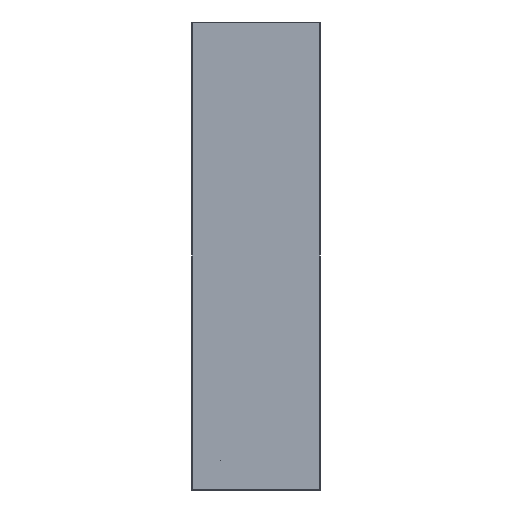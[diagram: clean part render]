
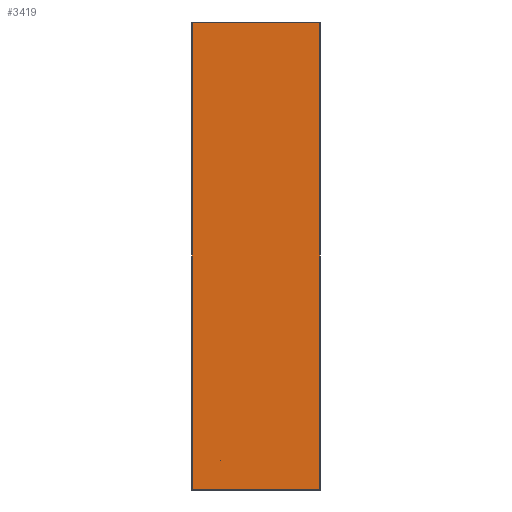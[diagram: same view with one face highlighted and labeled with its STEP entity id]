
A CAD part, front view. The second image highlights one B-rep face of the part: STEP entity #3419.
In plain terms, the highlighted planar face has unit normal (0, -1, 0).
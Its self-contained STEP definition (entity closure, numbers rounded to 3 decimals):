
#106=DIRECTION('',(0.,0.,1.));
#107=VECTOR('',#106,1594.);
#108=CARTESIAN_POINT('',(217.9,-15.,-797.));
#109=LINE('',#108,#107);
#178=DIRECTION('',(1.,0.,0.));
#179=VECTOR('',#178,435.8);
#180=CARTESIAN_POINT('',(-217.9,-15.,797.));
#181=LINE('',#180,#179);
#336=DIRECTION('',(-1.,0.,0.));
#337=VECTOR('',#336,435.8);
#338=CARTESIAN_POINT('',(217.9,-15.,-797.));
#339=LINE('',#338,#337);
#1176=DIRECTION('',(0.,0.,1.));
#1177=VECTOR('',#1176,1594.);
#1178=CARTESIAN_POINT('',(-217.9,-15.,-797.));
#1179=LINE('',#1178,#1177);
#1180=CARTESIAN_POINT('',(-120.4,-15.,-700.));
#1181=DIRECTION('',(0.,1.,0.));
#1182=DIRECTION('',(0.,0.,1.));
#1183=AXIS2_PLACEMENT_3D('',#1180,#1181,#1182);
#1185=CARTESIAN_POINT('',(-120.4,-15.,-700.));
#1186=DIRECTION('',(0.,1.,0.));
#1187=DIRECTION('',(0.,0.,-1.));
#1188=AXIS2_PLACEMENT_3D('',#1185,#1186,#1187);
#1286=CARTESIAN_POINT('',(217.9,-15.,797.));
#1287=VERTEX_POINT('',#1286);
#1290=CARTESIAN_POINT('',(-217.9,-15.,797.));
#1291=VERTEX_POINT('',#1290);
#1358=CARTESIAN_POINT('',(-217.9,-15.,-797.));
#1359=VERTEX_POINT('',#1358);
#1362=CARTESIAN_POINT('',(217.9,-15.,-797.));
#1363=VERTEX_POINT('',#1362);
#1414=CARTESIAN_POINT('',(-120.4,-15.,-699.5));
#1415=CARTESIAN_POINT('',(-120.4,-15.,-700.5));
#1416=VERTEX_POINT('',#1414);
#1417=VERTEX_POINT('',#1415);
#3403=CARTESIAN_POINT('',(-217.9,-15.,-798.));
#3404=DIRECTION('',(0.,-1.,0.));
#3405=DIRECTION('',(1.,0.,0.));
#3406=AXIS2_PLACEMENT_3D('',#3403,#3404,#3405);
#3407=PLANE('',#3406);
#3408=ORIENTED_EDGE('',*,*,#2023,.T.);
#3409=ORIENTED_EDGE('',*,*,#1962,.T.);
#3410=ORIENTED_EDGE('',*,*,#1808,.T.);
#3411=ORIENTED_EDGE('',*,*,#1714,.F.);
#3412=EDGE_LOOP('',(#3408,#3409,#3410,#3411));
#3413=FACE_OUTER_BOUND('',#3412,.F.);
#3414=ORIENTED_EDGE('',*,*,#3393,.F.);
#3416=ORIENTED_EDGE('',*,*,#3415,.F.);
#3417=EDGE_LOOP('',(#3414,#3416));
#3418=FACE_BOUND('',#3417,.F.);
#3419=ADVANCED_FACE('',(#3413,#3418),#3407,.T.);
#1184=CIRCLE('',#1183,0.5);
#1189=CIRCLE('',#1188,0.5);
#1714=EDGE_CURVE('',#1363,#1287,#109,.T.);
#1808=EDGE_CURVE('',#1291,#1287,#181,.T.);
#1962=EDGE_CURVE('',#1359,#1291,#1179,.T.);
#2023=EDGE_CURVE('',#1363,#1359,#339,.T.);
#3393=EDGE_CURVE('',#1416,#1417,#1184,.T.);
#3415=EDGE_CURVE('',#1417,#1416,#1189,.T.);
